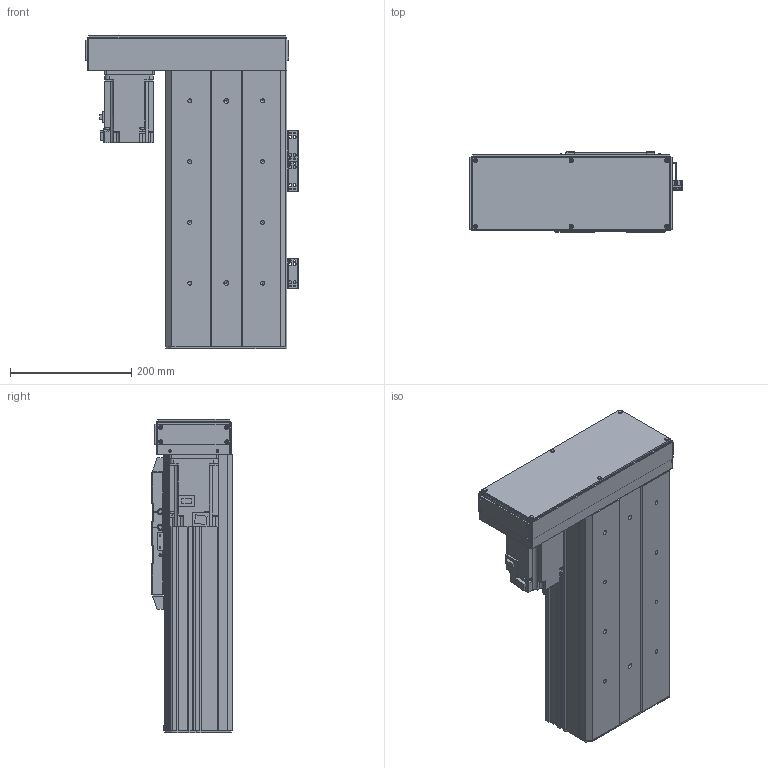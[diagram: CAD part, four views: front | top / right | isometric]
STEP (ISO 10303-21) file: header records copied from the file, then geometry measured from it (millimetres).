
FILE_DESCRIPTION(/* description */ ('MANUFACTURE'),/* implementation_level */ '2;1');
FILE_NAME(/* name */ '\\192.168.0.160\disk1\HAN SHIN Master\B-설계부문\C-표준\B-2024년\BC02-표준도면\+로봇 개선표준도면\표준 승인도 폴더 - 재작업\3D\HC Type\HC200\좌병렬\HC200-L70-N-0200-R10.stp',/* time_stamp */ '2024-03-25T09:02:09+09:00',/* author */ ('User'),/* organization */ (''),/* preprocessor_version */ 'ST-DEVELOPER v18.1',/* originating_system */ 'Autodesk Inventor 2022',/* authorisation */ 'LIP');
FILE_SCHEMA (('AUTOMOTIVE_DESIGN { 1 0 10303 214 3 1 1 }'));
Products named in the file (28): HC200-L70-N-0500-R10 - 간소화; HC200 S BASE F - 1100ST; HC90 REAR COVER; HC200 TABLE COVER - 개주; HC75 SENSOR DOG; HC200-STEEL SHEET F - 1100ST; LMKE2020 NUT; HR180 FRONT BLOCK; HR120 STOPPER; HC200 TABLE; HR180 FRONT BLOCK_1; HC200 SIDE COVER F - 1100ST; HC140 SHEET PLATE; HC65 TABLE SIDE COVER; M-5UT; M-5H-4; hg-kr73_; 750W MOTOR PLATE; HR200 ACRYL COVER -1; HR200 ACRYL COVER -1_1; HG200 750W LR MOTOR PLATE-사출; HR160 400W LR BELT COVER; HR200 ACRYL COVER -1_2; 화살표; SENSOR BRK(EE-SX674A); EE_SX674A; hsr_ftht_A-M6F_grease_nipple_joint; NIPPLE CAP(신규)
Assembly tree (49 placements, depth 2):
  HC200-L70-N-0500-R10 - 간소화
    HC200 S BASE F - 1100ST
    HC90 REAR COVER
    HC200 TABLE COVER - 개주
    HC65 TABLE SIDE COVER  x2
    HC75 SENSOR DOG
    HC200-STEEL SHEET F - 1100ST
    LMKE2020 NUT
    HR120 STOPPER  x2
    HR180 FRONT BLOCK
    HC200 SIDE COVER F - 1100ST  x2
    HC200 TABLE
    HR180 FRONT BLOCK_1
    HC140 SHEET PLATE  x2
    hsr_ftht_A-M6F_grease_nipple_joint  x5
    NIPPLE CAP(신규)  x5
    M-5UT  x2
    M-5H-4  x4
    hg-kr73_
    750W MOTOR PLATE
    HR200 ACRYL COVER -1
    HR200 ACRYL COVER -1_1
    HR200 ACRYL COVER -1_2  x2
    HG200 750W LR MOTOR PLATE-사출
    HR160 400W LR BELT COVER
    화살표  x2
    SENSOR BRK(EE-SX674A)  x3
    EE_SX674A  x3
Bounding box: 351 x 132 x 516 mm (x, y, z)
Volume: 5639813.7 mm3; surface area: 1585700.4 mm2
Topology: 51 solids, 51 shells, 4351 faces, 11848 edges, 7785 vertices
Faces by surface type: plane 3038, cylinder 877, cone 342, sphere 44, torus 30, bspline 20
Full cylindrical faces by diameter (mm): 1.8 x4, 2 x6, 2.459 x58, 2.5 x6, 3 x16, 3.242 x23, 3.4 x24, 3.5 x12, 4 x6, 4.134 x12, 4.5 x26, 4.917 x29, 5 x26, 5.5 x5, 5.6 x5, 5.9 x4, 6 x11, 6.5 x14, 6.6 x32, 6.647 x18, 6.8 x2, 7 x10, 7.6 x4, 8 x6, 9 x10, 9.5 x1, 10.5 x8, 11 x36, 19 x1, 20 x1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
Entity records: 112025 total; most frequent: CARTESIAN_POINT 20421, ORIENTED_EDGE 18972, DIRECTION 17946, EDGE_CURVE 9486, LINE 7824, VECTOR 7824, VERTEX_POINT 6311, AXIS2_PLACEMENT_3D 5061
